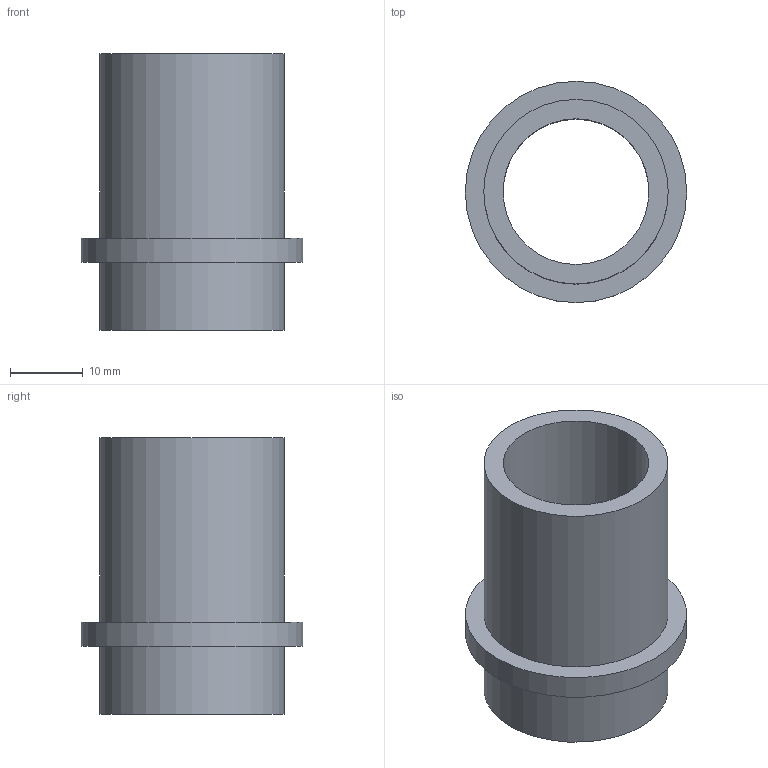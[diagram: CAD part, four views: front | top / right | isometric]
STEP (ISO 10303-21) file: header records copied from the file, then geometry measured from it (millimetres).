
FILE_DESCRIPTION(/* description */ (''),/* implementation_level */ '2;1');
FILE_NAME(/* name */ 'PCC 1.0/STEP/Tooling/Tokarev to AR9.step',/* time_stamp */ '2022-04-13T23:44:56-04:00',/* author */ (''),/* organization */ (''),/* preprocessor_version */ 'ST-DEVELOPER v18.1',/* originating_system */ 'Autodesk Translation Framework v10.14.0.1471',/* authorisation */ '');
FILE_SCHEMA (('AUTOMOTIVE_DESIGN { 1 0 10303 214 3 1 1 }'));
Length unit declared in the file: millimetre
Products named in the file (1): FusionComponent
Bounding box: 30.48 x 30.48 x 38.1 mm (x, y, z)
Volume: 7998.7 mm3; surface area: 6322 mm2
Topology: 1 solids, 1 shells, 8 faces, 12 edges, 8 vertices
Faces by surface type: plane 4, cylinder 4
Full cylindrical faces by diameter (mm): 20.066 x1, 25.4 x2, 30.48 x1
Entity records: 221 total; most frequent: DIRECTION 38, CARTESIAN_POINT 29, ORIENTED_EDGE 24, AXIS2_PLACEMENT_3D 17, EDGE_LOOP 12, EDGE_CURVE 12, FACE_OUTER_BOUND 8, CIRCLE 8
